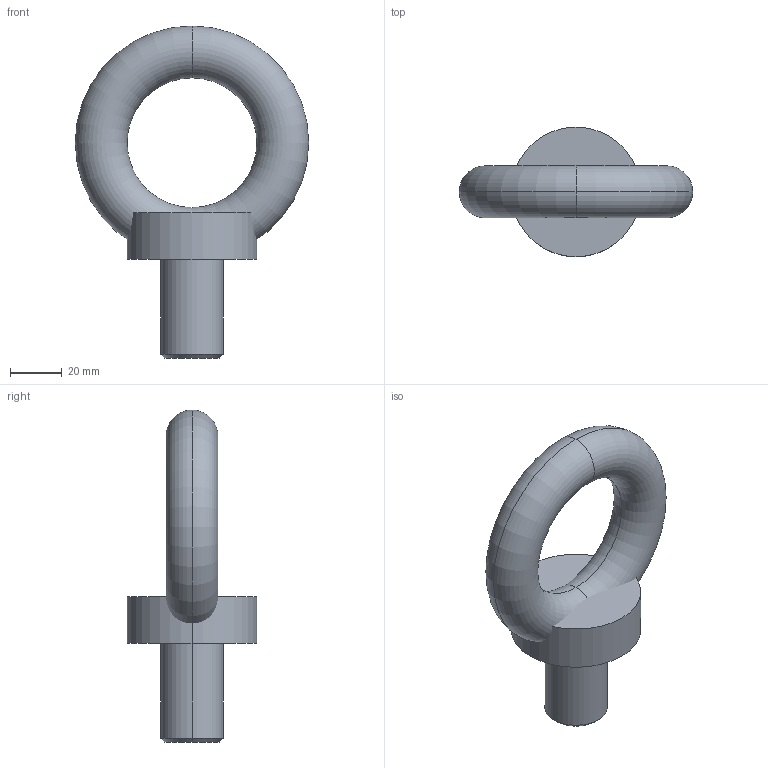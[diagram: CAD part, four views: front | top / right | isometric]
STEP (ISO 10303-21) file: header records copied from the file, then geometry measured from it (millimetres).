
FILE_DESCRIPTION (( 'STEP AP214' ), '1' );
FILE_NAME ('BruyRubio_CAN-24.STEP', '2019-12-22T22:55:15', ( '' ), ( '' ), 'SwSTEP 2.0', 'SolidWorks 2017', '' );
FILE_SCHEMA (( 'AUTOMOTIVE_DESIGN' ));
Length unit declared in the file: millimetre
Products named in the file (1): BruyRubio_CAN-24
Bounding box: 90 x 50 x 128 mm (x, y, z)
Volume: 121549.4 mm3; surface area: 28631.2 mm2
Topology: 3 solids, 3 shells, 18 faces, 34 edges, 20 vertices
Faces by surface type: cylinder 8, plane 4, torus 4, cone 2
Entity records: 716 total; most frequent: DIRECTION 96, CARTESIAN_POINT 73, ORIENTED_EDGE 68, AXIS2_PLACEMENT_3D 43, EDGE_CURVE 34, CIRCLE 24, UNCERTAINTY_MEASURE_WITH_UNIT 23, SURFACE_STYLE_FILL_AREA 22
